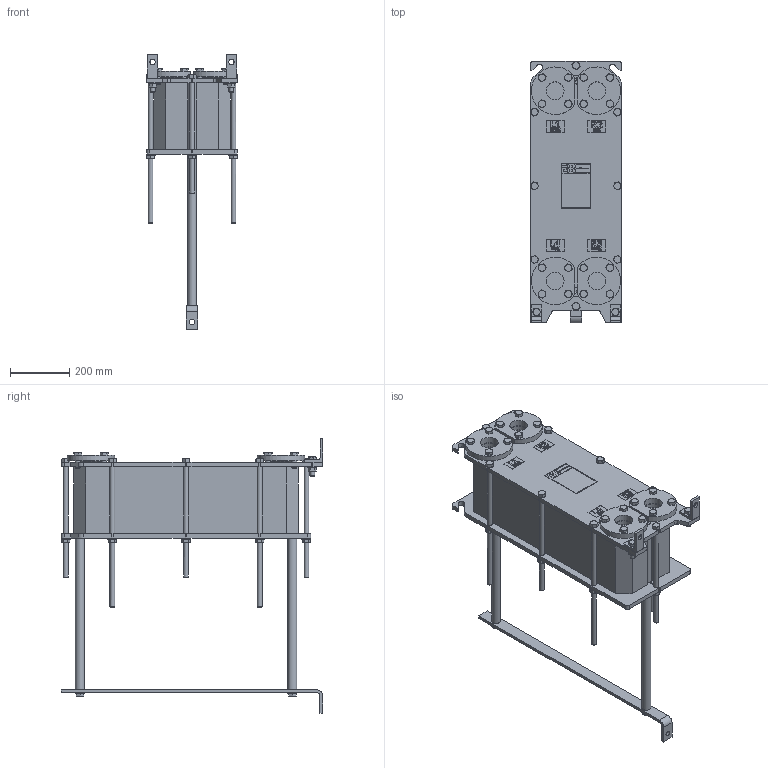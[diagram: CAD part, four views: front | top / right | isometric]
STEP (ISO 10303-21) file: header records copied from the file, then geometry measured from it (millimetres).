
FILE_DESCRIPTION (( 'STEP AP214' ), '1' );
FILE_NAME ('ÏÒ S50 ðåä7 10áàð ê ñèãìà 71...110.STEP', '2021-04-22T19:53:18', ( '' ), ( '' ), 'SwSTEP 2.0', 'SolidWorks 2018', '' );
FILE_SCHEMA (( 'AUTOMOTIVE_DESIGN' ));
Length unit declared in the file: millimetre
Products named in the file (3): ÏÒ S50 ðåä7 10áàð ê ñèãìà1; ÏÒ S50 ðåä7 10áàð ê ñèãìà 71...110; ÏÒ S50 ðåä7 10áàð ê ñèãìà2 71...110
Assembly tree (2 placements, depth 2):
  ÏÒ S50 ðåä7 10áàð ê ñèãìà 71...110
    ÏÒ S50 ðåä7 10áàð ê ñèãìà2 71...110
    ÏÒ S50 ðåä7 10áàð ê ñèãìà1
Bounding box: 308.99 x 880 x 925 mm (x, y, z)
Volume: 51049100.3 mm3; surface area: 2803863 mm2
Topology: 30 solids, 36 shells, 1958 faces, 4772 edges, 3041 vertices
Faces by surface type: plane 1034, cone 416, bspline 275, cylinder 211, torus 22
Full cylindrical faces by diameter (mm): 16 x62, 17 x12, 18 x23, 29.48 x2, 30 x16, 60 x12, 60.01 x4, 101 x4
Entity records: 86216 total; most frequent: CARTESIAN_POINT 22848, ORIENTED_EDGE 8920, DIRECTION 7488, EDGE_CURVE 4460, VERTEX_POINT 2966, AXIS2_PLACEMENT_3D 2562, EDGE_LOOP 2444, LINE 2364
